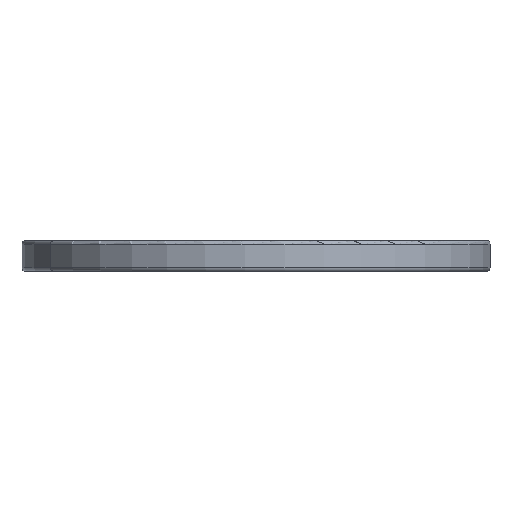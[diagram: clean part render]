
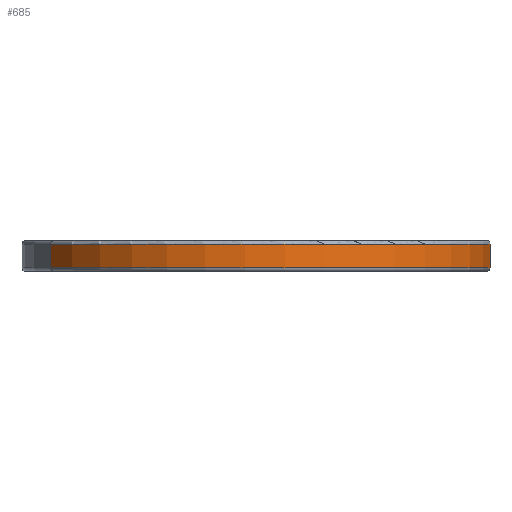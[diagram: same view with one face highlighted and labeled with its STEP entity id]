
A CAD part, left-side view. The second image highlights one B-rep face of the part: STEP entity #685.
In plain terms, the highlighted cylindrical face has radius 60.65 mm (diameter 121.3 mm), a partial arc.
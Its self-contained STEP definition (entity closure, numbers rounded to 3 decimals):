
#523=AXIS2_PLACEMENT_3D('Circle Axis2P3D',#521,#522,$) ;
#572=AXIS2_PLACEMENT_3D('Circle Axis2P3D',#570,#571,$) ;
#663=AXIS2_PLACEMENT_3D('Cylinder Axis2P3D',#660,#661,#662) ;
#667=AXIS2_PLACEMENT_3D('Circle Axis2P3D',#665,#666,$) ;
#674=AXIS2_PLACEMENT_3D('Circle Axis2P3D',#672,#673,$) ;
#464=CARTESIAN_POINT('Vertex',(1054.307,-589.576,311.895)) ;
#480=CARTESIAN_POINT('Vertex',(996.341,-483.023,311.895)) ;
#506=CARTESIAN_POINT('Vertex',(1040.848,-594.929,311.895)) ;
#521=CARTESIAN_POINT('Axis2P3D Location',(1025.324,-536.3,311.895)) ;
#570=CARTESIAN_POINT('Axis2P3D Location',(1025.324,-536.3,311.895)) ;
#592=CARTESIAN_POINT('Line Origine',(1054.307,-589.576,314.895)) ;
#596=CARTESIAN_POINT('Vertex',(1054.307,-589.576,317.895)) ;
#599=CARTESIAN_POINT('Line Origine',(996.341,-483.023,314.895)) ;
#603=CARTESIAN_POINT('Vertex',(996.341,-483.023,317.895)) ;
#660=CARTESIAN_POINT('Axis2P3D Location',(1025.324,-536.3,314.895)) ;
#665=CARTESIAN_POINT('Axis2P3D Location',(1025.324,-536.3,317.895)) ;
#669=CARTESIAN_POINT('Vertex',(1040.848,-594.929,317.895)) ;
#672=CARTESIAN_POINT('Axis2P3D Location',(1025.324,-536.3,317.895)) ;
#522=DIRECTION('Axis2P3D Direction',(0.,0.,1.)) ;
#571=DIRECTION('Axis2P3D Direction',(0.,0.,1.)) ;
#593=DIRECTION('Vector Direction',(0.,0.,1.)) ;
#600=DIRECTION('Vector Direction',(0.,0.,1.)) ;
#661=DIRECTION('Axis2P3D Direction',(0.,0.,1.)) ;
#662=DIRECTION('Axis2P3D XDirection',(-0.478,0.878,0.)) ;
#666=DIRECTION('Axis2P3D Direction',(0.,0.,1.)) ;
#673=DIRECTION('Axis2P3D Direction',(0.,0.,1.)) ;
#594=VECTOR('Line Direction',#593,1.) ;
#601=VECTOR('Line Direction',#600,1.) ;
#678=ORIENTED_EDGE('',*,*,#605,.F.) ;
#679=ORIENTED_EDGE('',*,*,#574,.T.) ;
#680=ORIENTED_EDGE('',*,*,#525,.T.) ;
#681=ORIENTED_EDGE('',*,*,#598,.T.) ;
#682=ORIENTED_EDGE('',*,*,#671,.F.) ;
#683=ORIENTED_EDGE('',*,*,#676,.F.) ;
#685=ADVANCED_FACE('\X2\88C5914D524D\X0\',(#684),#664,.T.) ;
#524=CIRCLE('generated circle',#523,60.65) ;
#573=CIRCLE('generated circle',#572,60.65) ;
#668=CIRCLE('generated circle',#667,60.65) ;
#675=CIRCLE('generated circle',#674,60.65) ;
#664=CYLINDRICAL_SURFACE('generated cylinder',#663,60.65) ;
#525=EDGE_CURVE('',#507,#465,#524,.T.) ;
#574=EDGE_CURVE('',#481,#507,#573,.T.) ;
#598=EDGE_CURVE('',#465,#597,#595,.T.) ;
#605=EDGE_CURVE('',#481,#604,#602,.T.) ;
#671=EDGE_CURVE('',#670,#597,#668,.T.) ;
#676=EDGE_CURVE('',#604,#670,#675,.T.) ;
#677=EDGE_LOOP('',(#678,#679,#680,#681,#682,#683)) ;
#684=FACE_OUTER_BOUND('',#677,.T.) ;
#595=LINE('Line',#592,#594) ;
#602=LINE('Line',#599,#601) ;
#465=VERTEX_POINT('',#464) ;
#481=VERTEX_POINT('',#480) ;
#507=VERTEX_POINT('',#506) ;
#597=VERTEX_POINT('',#596) ;
#604=VERTEX_POINT('',#603) ;
#670=VERTEX_POINT('',#669) ;
